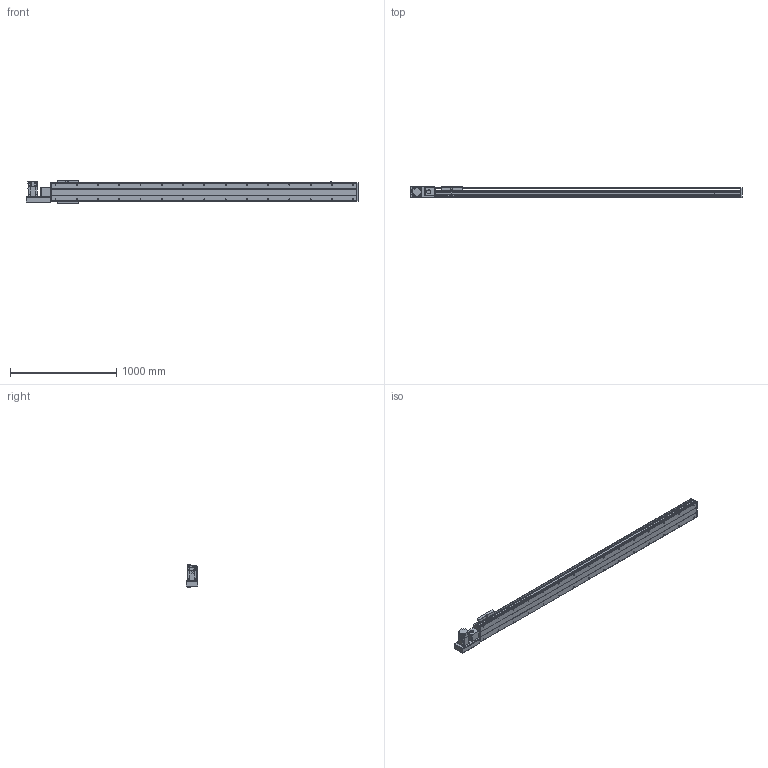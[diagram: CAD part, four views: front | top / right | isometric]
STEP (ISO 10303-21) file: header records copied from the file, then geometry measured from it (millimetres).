
FILE_DESCRIPTION(/* description */ ('STEP AP214'),/* implementation_level */ '2;1');
FILE_NAME(/* name */ 'PBS200-P40-S2500-L-T75-C1-N(0)',/* time_stamp */ '2022-06-11T07:50:53+02:00',/* author */ ('License CC BY-ND 4.0'),/* organization */ ('CADENAS'),/* preprocessor_version */ 'ST-DEVELOPER v18.102',/* originating_system */ 'PARTsolutions',/* authorisation */ ' ');
FILE_SCHEMA (('AUTOMOTIVE_DESIGN {1 0 10303 214 3 1 1}'));
Length unit declared in the file: millimetre
Products named in the file (7): PBS200-P40-S2500-L-T75-C1-N(0); PBS200_sensor; PBS200_plant; PBS200_sliser; T75-p1; PBS200T-L_motors; PBS200-S2500()_body
Assembly tree (8 placements, depth 2):
  PBS200-P40-S2500-L-T75-C1-N(0)
    PBS200_sensor  x3
    PBS200_plant
    PBS200_sliser
    T75-p1
    PBS200T-L_motors
    PBS200-S2500()_body
Bounding box: 3122 x 109 x 221 mm (x, y, z)
Volume: 20604311.7 mm3; surface area: 3296122 mm2
Topology: 8 solids, 8 shells, 962 faces, 2444 edges, 1590 vertices
Faces by surface type: plane 588, cylinder 312, cone 62
Full cylindrical faces by diameter (mm): 2.459 x6, 3.242 x4, 4.5 x6, 4.917 x4, 5 x6, 6 x7, 6.6 x8, 6.647 x34, 8 x6, 10 x4, 12 x8, 38 x2, 40 x1, 70 x1
Entity records: 25421 total; most frequent: DIRECTION 4495, CARTESIAN_POINT 4318, ORIENTED_EDGE 4066, EDGE_CURVE 2033, AXIS2_PLACEMENT_3D 1591, VERTEX_POINT 1414, LINE 1313, VECTOR 1313
